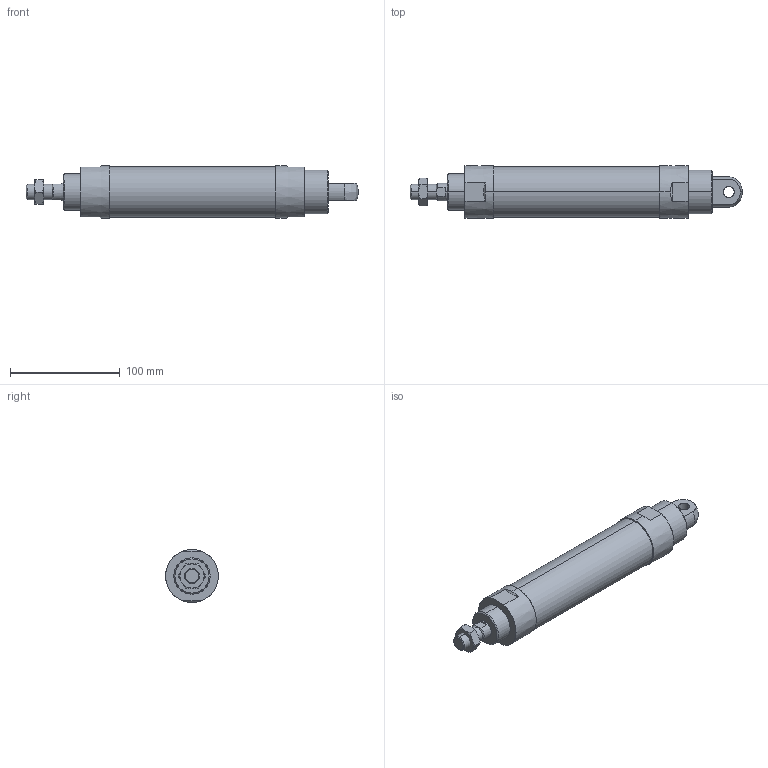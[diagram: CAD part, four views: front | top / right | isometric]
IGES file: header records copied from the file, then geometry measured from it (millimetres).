
Start section: SolidWorks IGES file using analytic representation for surfaces
Global section: file name: C:\Users\Toshiba\Desktop\J#2-40-100-C.IGS; native system: SolidWorks 2014; preprocessor: SolidWorks 2014; author: Toshiba; date: 160308.155738; units: millimetre
Bounding box: 302 x 48 x 48 mm (x, y, z)
Surface area: 44176.1 mm2 (no closed solid volume)
Topology: 0 solids, 0 shells, 81 faces, 1622 edges, 1618 vertices
Faces by surface type: bspline 42, revolution 39
